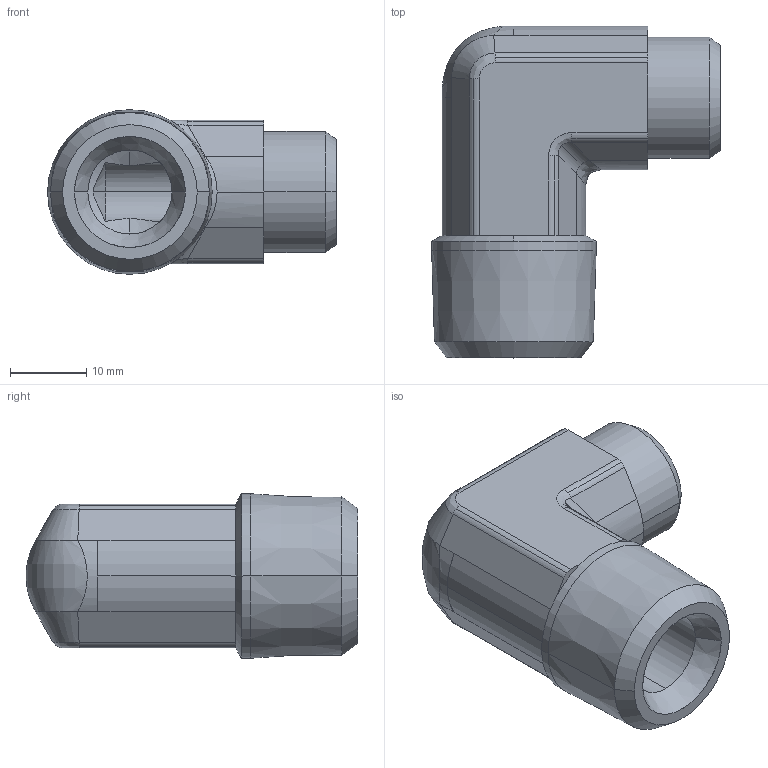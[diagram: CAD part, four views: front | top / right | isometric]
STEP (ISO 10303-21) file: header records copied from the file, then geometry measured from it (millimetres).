
FILE_DESCRIPTION((''),'2;1');
FILE_NAME('102030.stp','2007-10-30T16:35:58',(''),(''),'AutoCAD STEP 2000i','AutoCAD 2000i',', , ');
FILE_SCHEMA(('CONFIG_CONTROL_DESIGN'));
Length unit declared in the file: millimetre
Products named in the file (2): 102030.0; 3090#0
Assembly tree (1 placements, depth 2):
  102030.0
    3090#0
Bounding box: 37.76 x 43.4 x 21.52 mm (x, y, z)
Volume: 12709.1 mm3; surface area: 5975.1 mm2
Topology: 1 solids, 1 shells, 91 faces, 220 edges, 133 vertices
Faces by surface type: cylinder 38, plane 22, cone 17, bspline 14
Entity records: 3569 total; most frequent: CARTESIAN_POINT 1329, DIRECTION 471, ORIENTED_EDGE 440, EDGE_CURVE 220, AXIS2_PLACEMENT_3D 192, VERTEX_POINT 133, CIRCLE 103, EDGE_LOOP 95
